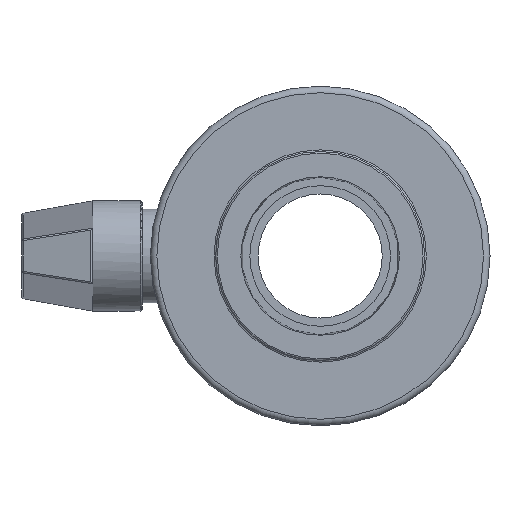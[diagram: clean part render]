
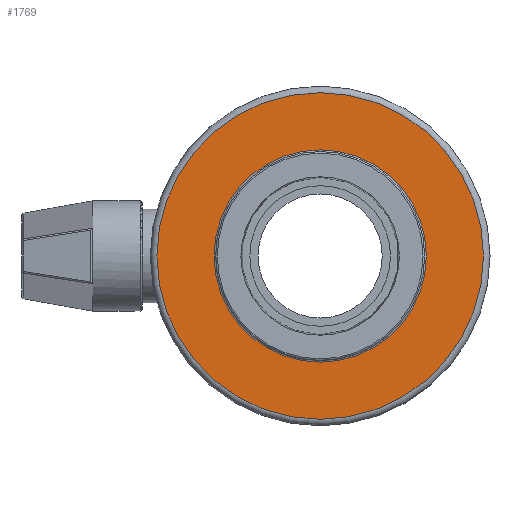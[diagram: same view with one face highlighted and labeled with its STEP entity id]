
A CAD part, left-side view. The second image highlights one B-rep face of the part: STEP entity #1769.
In plain terms, the highlighted planar face has unit normal (-1, 0, 0).
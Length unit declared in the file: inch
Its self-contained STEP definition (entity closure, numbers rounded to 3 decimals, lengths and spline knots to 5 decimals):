
#78 = ORIENTED_EDGE ( 'NONE', *, *, #94, .T. ) ;
#94 = EDGE_CURVE ( 'NONE', #1179, #1179, #370, .T. ) ;
#100 = CARTESIAN_POINT ( 'NONE',  ( -2.14375, 0., 0. ) ) ;
#124 = ORIENTED_EDGE ( 'NONE', *, *, #1139, .T. ) ;
#170 = DIRECTION ( 'NONE',  ( 1., 0., 0. ) ) ;
#370 = CIRCLE ( 'NONE', #1941, 1.27919 ) ;
#385 = CARTESIAN_POINT ( 'NONE',  ( -2.14375, 0., -1.27919 ) ) ;
#417 = CARTESIAN_POINT ( 'NONE',  ( -2.14375, 0., -1.96813 ) ) ;
#521 = FACE_BOUND ( 'NONE', #1886, .T. ) ;
#555 = PLANE ( 'NONE',  #2324 ) ;
#662 = DIRECTION ( 'NONE',  ( -1., 0., 0. ) ) ;
#739 = DIRECTION ( 'NONE',  ( 0., 0., -1. ) ) ;
#789 = VERTEX_POINT ( 'NONE', #417 ) ;
#949 = FACE_OUTER_BOUND ( 'NONE', #2172, .T. ) ;
#1139 = EDGE_CURVE ( 'NONE', #789, #789, #1428, .T. ) ;
#1179 = VERTEX_POINT ( 'NONE', #385 ) ;
#1360 = CARTESIAN_POINT ( 'NONE',  ( -2.14375, 0., 0. ) ) ;
#1428 = CIRCLE ( 'NONE', #2538, 1.96813 ) ;
#1712 = DIRECTION ( 'NONE',  ( 0., 0., -1. ) ) ;
#1716 = DIRECTION ( 'NONE',  ( 1., 0., 0. ) ) ;
#1750 = DIRECTION ( 'NONE',  ( 0., 0., -1. ) ) ;
#1769 = ADVANCED_FACE ( 'NONE', ( #949, #521 ), #555, .F. ) ;
#1886 = EDGE_LOOP ( 'NONE', ( #78 ) ) ;
#1941 = AXIS2_PLACEMENT_3D ( 'NONE', #1360, #170, #1750 ) ;
#2172 = EDGE_LOOP ( 'NONE', ( #124 ) ) ;
#2324 = AXIS2_PLACEMENT_3D ( 'NONE', #2508, #1716, #739 ) ;
#2508 = CARTESIAN_POINT ( 'NONE',  ( -2.14375, 1.2595, 0. ) ) ;
#2538 = AXIS2_PLACEMENT_3D ( 'NONE', #100, #662, #1712 ) ;
